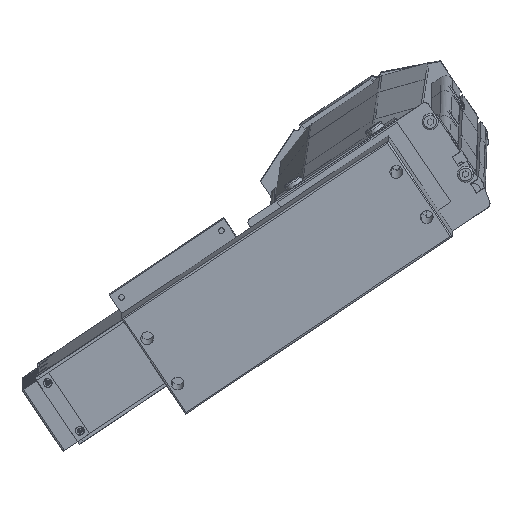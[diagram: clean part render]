
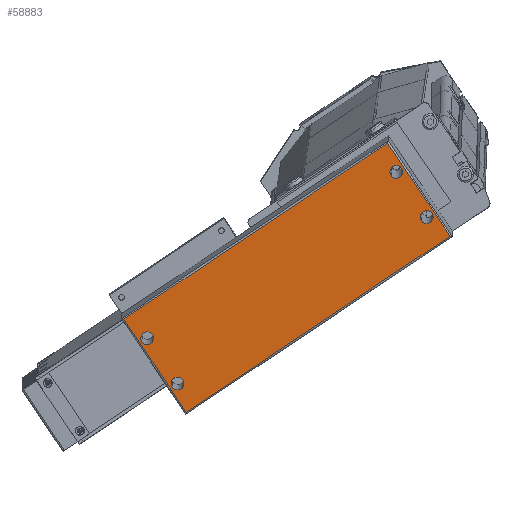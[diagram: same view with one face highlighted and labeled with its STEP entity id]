
A CAD part, top view. The second image highlights one B-rep face of the part: STEP entity #58883.
In plain terms, the highlighted planar face has unit normal (-0.003, -0.079, 0.997) as drawn and (0, 0, 1) by its records, which use the part's own axes.
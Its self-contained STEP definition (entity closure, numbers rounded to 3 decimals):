
#5634 = CIRCLE ( 'NONE', #5692, 4. ) ;
#5640 = CARTESIAN_POINT ( 'NONE',  ( 25.25, 53., 44. ) ) ;
#5648 = CARTESIAN_POINT ( 'NONE',  ( 33.25, 53., 44. ) ) ;
#5668 = CARTESIAN_POINT ( 'NONE',  ( -161.75, 53., 44. ) ) ;
#5689 = DIRECTION ( 'NONE',  ( 1., 0., 0. ) ) ;
#5690 = DIRECTION ( 'NONE',  ( 0., 0., 1. ) ) ;
#5691 = CARTESIAN_POINT ( 'NONE',  ( 29.25, 53., 44. ) ) ;
#5692 = AXIS2_PLACEMENT_3D ( 'NONE', #5691, #5690, #5689 ) ;
#5705 = CARTESIAN_POINT ( 'NONE',  ( 33.25, 19., 44. ) ) ;
#5707 = CIRCLE ( 'NONE', #5763, 4. ) ;
#5719 = CARTESIAN_POINT ( 'NONE',  ( 29.25, 19., 44. ) ) ;
#5761 = DIRECTION ( 'NONE',  ( 1., 0., 0. ) ) ;
#5762 = DIRECTION ( 'NONE',  ( 0., 0., 1. ) ) ;
#5763 = AXIS2_PLACEMENT_3D ( 'NONE', #5719, #5762, #5761 ) ;
#5765 = CARTESIAN_POINT ( 'NONE',  ( 25.25, 19., 44. ) ) ;
#5798 = DIRECTION ( 'NONE',  ( 1., 0., 0. ) ) ;
#5799 = DIRECTION ( 'NONE',  ( 0., 0., 1. ) ) ;
#5800 = CARTESIAN_POINT ( 'NONE',  ( -157.75, 19., 44. ) ) ;
#5808 = AXIS2_PLACEMENT_3D ( 'NONE', #5800, #5799, #5798 ) ;
#5827 = CIRCLE ( 'NONE', #5808, 4. ) ;
#5845 = DIRECTION ( 'NONE',  ( 1., 0., 0. ) ) ;
#5846 = DIRECTION ( 'NONE',  ( 0., 0., 1. ) ) ;
#5847 = AXIS2_PLACEMENT_3D ( 'NONE', #5856, #5846, #5845 ) ;
#5852 = CIRCLE ( 'NONE', #5847, 4. ) ;
#5856 = CARTESIAN_POINT ( 'NONE',  ( -157.75, 53., 44. ) ) ;
#5892 = CARTESIAN_POINT ( 'NONE',  ( -153.75, 53., 44. ) ) ;
#5893 = CARTESIAN_POINT ( 'NONE',  ( -161.75, 19., 44. ) ) ;
#5967 = CARTESIAN_POINT ( 'NONE',  ( -153.75, 19., 44. ) ) ;
#18292 = PLANE ( 'NONE',  #18333 ) ;
#18293 = CARTESIAN_POINT ( 'NONE',  ( 35.75, 1., 44. ) ) ;
#18294 = LINE ( 'NONE', #18293, #18329 ) ;
#18298 = CARTESIAN_POINT ( 'NONE',  ( 34.75, 72., 44. ) ) ;
#18303 = AXIS2_PLACEMENT_3D ( 'NONE', #18347, #18346, #18345 ) ;
#18323 = CARTESIAN_POINT ( 'NONE',  ( -163.25, 1., 44. ) ) ;
#18325 = DIRECTION ( 'NONE',  ( 1., 0., 0. ) ) ;
#18326 = DIRECTION ( 'NONE',  ( 0., 0., 1. ) ) ;
#18328 = DIRECTION ( 'NONE',  ( 1., 0., 0. ) ) ;
#18329 = VECTOR ( 'NONE', #18328, 1000. ) ;
#18332 = FACE_BOUND ( 'NONE', #58757, .T. ) ;
#18333 = AXIS2_PLACEMENT_3D ( 'NONE', #18338, #18326, #18325 ) ;
#18334 = FACE_OUTER_BOUND ( 'NONE', #58856, .T. ) ;
#18338 = CARTESIAN_POINT ( 'NONE',  ( -164.25, 0., 44. ) ) ;
#18340 = FACE_BOUND ( 'NONE', #58986, .T. ) ;
#18341 = CARTESIAN_POINT ( 'NONE',  ( -163.25, 71., 44. ) ) ;
#18342 = FACE_BOUND ( 'NONE', #58812, .T. ) ;
#18343 = DIRECTION ( 'NONE',  ( 0., 1., 0. ) ) ;
#18344 = VECTOR ( 'NONE', #18343, 1000. ) ;
#18345 = DIRECTION ( 'NONE',  ( 1., 0., 0. ) ) ;
#18346 = DIRECTION ( 'NONE',  ( 0., 0., 1. ) ) ;
#18347 = CARTESIAN_POINT ( 'NONE',  ( 29.25, 53., 44. ) ) ;
#18349 = FACE_BOUND ( 'NONE', #58268, .T. ) ;
#18352 = LINE ( 'NONE', #18298, #18344 ) ;
#18354 = CIRCLE ( 'NONE', #18303, 4. ) ;
#18355 = CARTESIAN_POINT ( 'NONE',  ( 34.75, 71., 44. ) ) ;
#18356 = CARTESIAN_POINT ( 'NONE',  ( 29.25, 19., 44. ) ) ;
#18358 = CIRCLE ( 'NONE', #18410, 4. ) ;
#18359 = DIRECTION ( 'NONE',  ( 0., -1., 0. ) ) ;
#18360 = VECTOR ( 'NONE', #18359, 1000. ) ;
#18361 = CIRCLE ( 'NONE', #18364, 4. ) ;
#18362 = CARTESIAN_POINT ( 'NONE',  ( -163.25, 0., 44. ) ) ;
#18363 = LINE ( 'NONE', #18362, #18360 ) ;
#18364 = AXIS2_PLACEMENT_3D ( 'NONE', #18356, #18365, #18412 ) ;
#18365 = DIRECTION ( 'NONE',  ( 0., 0., 1. ) ) ;
#18368 = CARTESIAN_POINT ( 'NONE',  ( -164.25, 71., 44. ) ) ;
#18369 = LINE ( 'NONE', #18368, #18408 ) ;
#18385 = CARTESIAN_POINT ( 'NONE',  ( 34.75, 1., 44. ) ) ;
#18387 = CIRCLE ( 'NONE', #18445, 4. ) ;
#18401 = DIRECTION ( 'NONE',  ( 1., 0., 0. ) ) ;
#18402 = DIRECTION ( 'NONE',  ( 0., 0., 1. ) ) ;
#18403 = CARTESIAN_POINT ( 'NONE',  ( -157.75, 19., 44. ) ) ;
#18407 = DIRECTION ( 'NONE',  ( -1., 0., 0. ) ) ;
#18408 = VECTOR ( 'NONE', #18407, 1000. ) ;
#18410 = AXIS2_PLACEMENT_3D ( 'NONE', #18403, #18402, #18401 ) ;
#18412 = DIRECTION ( 'NONE',  ( 1., 0., 0. ) ) ;
#18442 = DIRECTION ( 'NONE',  ( 1., 0., 0. ) ) ;
#18443 = DIRECTION ( 'NONE',  ( 0., 0., 1. ) ) ;
#18444 = CARTESIAN_POINT ( 'NONE',  ( -157.75, 53., 44. ) ) ;
#18445 = AXIS2_PLACEMENT_3D ( 'NONE', #18444, #18443, #18442 ) ;
#24619 = VERTEX_POINT ( 'NONE', #5648 ) ;
#24622 = VERTEX_POINT ( 'NONE', #5640 ) ;
#24624 = EDGE_CURVE ( 'NONE', #24622, #24619, #5634, .T. ) ;
#24634 = VERTEX_POINT ( 'NONE', #5668 ) ;
#24656 = EDGE_CURVE ( 'NONE', #24659, #24666, #5707, .T. ) ;
#24659 = VERTEX_POINT ( 'NONE', #5765 ) ;
#24666 = VERTEX_POINT ( 'NONE', #5705 ) ;
#24716 = EDGE_CURVE ( 'NONE', #24733, #24767, #5827, .T. ) ;
#24723 = EDGE_CURVE ( 'NONE', #24634, #24732, #5852, .T. ) ;
#24732 = VERTEX_POINT ( 'NONE', #5892 ) ;
#24733 = VERTEX_POINT ( 'NONE', #5893 ) ;
#24767 = VERTEX_POINT ( 'NONE', #5967 ) ;
#58010 = ORIENTED_EDGE ( 'NONE', *, *, #59138, .F. ) ;
#58268 = EDGE_LOOP ( 'NONE', ( #58010, #59075 ) ) ;
#58720 = EDGE_CURVE ( 'NONE', #24619, #24622, #18354, .T. ) ;
#58746 = ORIENTED_EDGE ( 'NONE', *, *, #58985, .F. ) ;
#58757 = EDGE_LOOP ( 'NONE', ( #59272, #58992 ) ) ;
#58775 = ORIENTED_EDGE ( 'NONE', *, *, #24656, .F. ) ;
#58790 = EDGE_CURVE ( 'NONE', #59091, #58868, #18352, .T. ) ;
#58812 = EDGE_LOOP ( 'NONE', ( #58862, #58835 ) ) ;
#58817 = ORIENTED_EDGE ( 'NONE', *, *, #59002, .T. ) ;
#58835 = ORIENTED_EDGE ( 'NONE', *, *, #24716, .F. ) ;
#58856 = EDGE_LOOP ( 'NONE', ( #59123, #58915, #58817, #58967 ) ) ;
#58862 = ORIENTED_EDGE ( 'NONE', *, *, #59020, .F. ) ;
#58868 = VERTEX_POINT ( 'NONE', #18355 ) ;
#58883 = ADVANCED_FACE ( 'NONE', ( #18349, #18342, #18340, #18332, #18334 ), #18292, .T. ) ;
#58893 = EDGE_CURVE ( 'NONE', #58900, #59091, #18294, .T. ) ;
#58898 = VERTEX_POINT ( 'NONE', #18341 ) ;
#58900 = VERTEX_POINT ( 'NONE', #18323 ) ;
#58915 = ORIENTED_EDGE ( 'NONE', *, *, #58790, .T. ) ;
#58967 = ORIENTED_EDGE ( 'NONE', *, *, #58971, .T. ) ;
#58971 = EDGE_CURVE ( 'NONE', #58898, #58900, #18363, .T. ) ;
#58985 = EDGE_CURVE ( 'NONE', #24666, #24659, #18361, .T. ) ;
#58986 = EDGE_LOOP ( 'NONE', ( #58746, #58775 ) ) ;
#58992 = ORIENTED_EDGE ( 'NONE', *, *, #24624, .F. ) ;
#59002 = EDGE_CURVE ( 'NONE', #58868, #58898, #18369, .T. ) ;
#59020 = EDGE_CURVE ( 'NONE', #24767, #24733, #18358, .T. ) ;
#59075 = ORIENTED_EDGE ( 'NONE', *, *, #24723, .F. ) ;
#59091 = VERTEX_POINT ( 'NONE', #18385 ) ;
#59123 = ORIENTED_EDGE ( 'NONE', *, *, #58893, .T. ) ;
#59138 = EDGE_CURVE ( 'NONE', #24732, #24634, #18387, .T. ) ;
#59272 = ORIENTED_EDGE ( 'NONE', *, *, #58720, .F. ) ;
